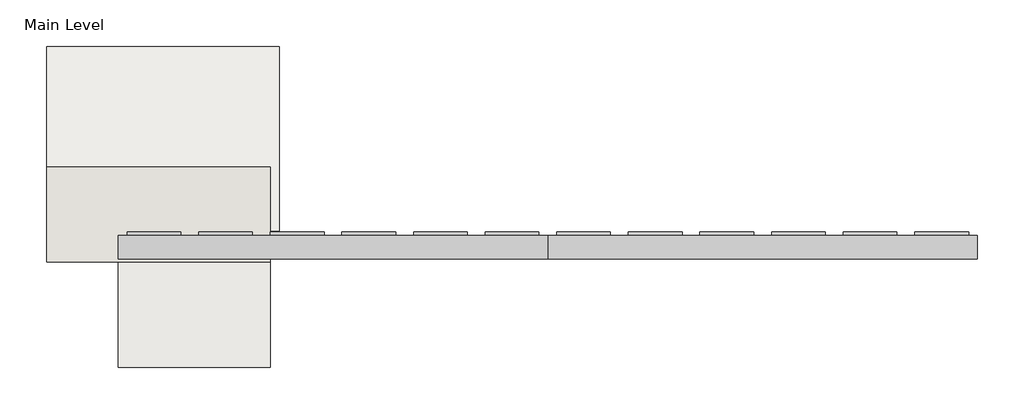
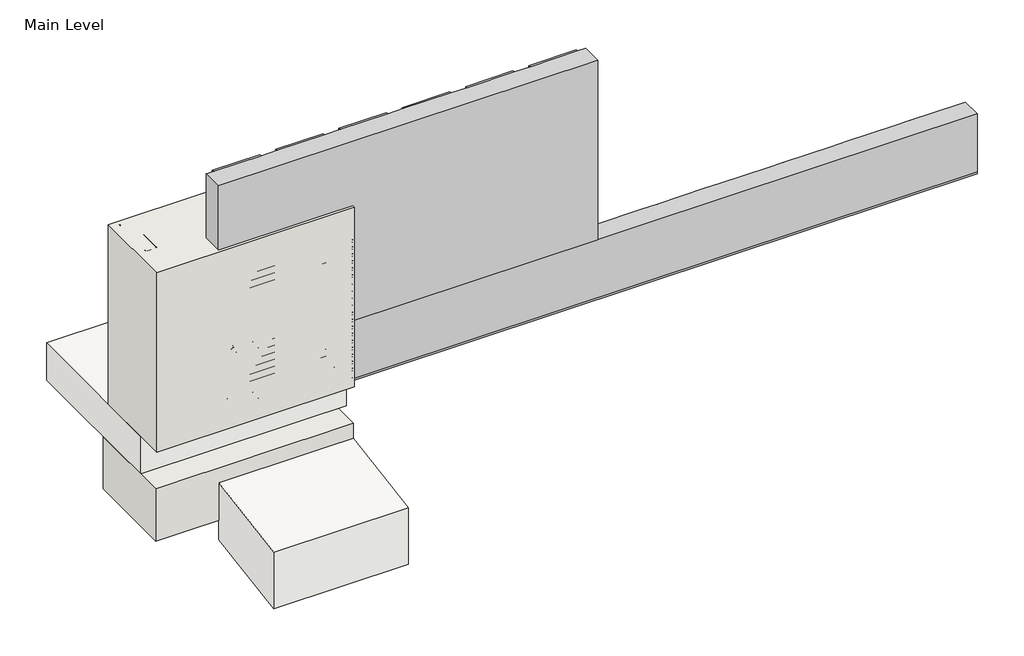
# One storey, incomplete: 10 proxies, 2 slabs, 2 walls.
"""IFC4 building model written with IfcOpenShell, lengths in millimetres."""

from ifc_helpers import new_model, si_unit, frame, origin, origin_with_axes, place, context, project, spatial, polyline, outline, extrude, transform, mapped, element, save
from components import generic_models_31547c53, generic_models_0bbfdc8f, generic_models_1e1ad44f, generic_models_7dd17a53, generic_models_441de798, generic_models_9d0e7a2a, generic_models_8c792c9c, proxy_215900e5, proxy_691c8b69, wood_blocking_c9818c35

model = new_model("IFC4")

# Units and contexts
model_context = context("Model", 3, world=origin())
ifc_project = project(units=[si_unit("LENGTHUNIT", "METRE", prefix="MILLI")], contexts=[model_context])

# Site, building, storey
site = spatial("IfcSite", under=ifc_project)
building = spatial("IfcBuilding", under=site)
storey = spatial("IfcBuildingStorey", under=building, Name="Main Level", Elevation=0.0)

# Proxies
placement = place(None, origin())
generic_models_shape = generic_models_31547c53(model_context)
element("IfcBuildingElementProxy", 1, Name="Durabond Generic Model Sealant Vent : Durabond Generic Model Sealant Vent", ObjectType="Durabond Generic Model Sealant Vent : Durabond Generic Model Sealant Vent", at=placement, inside=storey, context=model_context, shape_type="MappedRepresentation", body=[
    mapped(generic_models_shape, transform((26865.4101773, 546.8432813, 8.5594788), x_axis=(1.0, 0.0, 0.0), y_axis=(0.0, 0.08715574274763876, -0.9961946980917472), z_axis=(0.0, 0.9961946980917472, 0.08715574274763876))),
])
generic_models_2_shape = generic_models_0bbfdc8f(model_context)
generic_models_3_shape = generic_models_1e1ad44f(model_context)
generic_models_4_shape = generic_models_7dd17a53(model_context)
generic_models_5_shape = generic_models_441de798(model_context)
element("IfcBuildingElementProxy", 2, Name="CRAi Generic Model Mesh Piece Face Based : CRAi Generic Model Mesh Piece Face Based", ObjectType="CRAi Generic Model Mesh Piece Face Based : CRAi Generic Model Mesh Piece Face Based", at=placement, inside=storey, context=model_context, shape_type="MappedRepresentation", body=[
    mapped(generic_models_2_shape, transform((26933.6726773, 541.9066297, 261.6963215), x_axis=(-1.0, 0.0, 0.0), y_axis=(0.0, 0.0, -1.0), z_axis=(0.0, -1.0, 0.0))),
    mapped(generic_models_3_shape, transform((26933.6726773, 541.9066297, 261.6963215), x_axis=(-1.0, 0.0, 0.0), y_axis=(0.0, 0.0, -1.0), z_axis=(0.0, -1.0, 0.0))),
    mapped(generic_models_4_shape, transform((26933.6726773, 541.9066297, 261.6963215), x_axis=(-1.0, 0.0, 0.0), y_axis=(0.0, 0.0, -1.0), z_axis=(0.0, -1.0, 0.0))),
    mapped(generic_models_5_shape, transform((26933.6726773, 541.9066297, 261.6963215), x_axis=(-1.0, 0.0, 0.0), y_axis=(0.0, 0.0, -1.0), z_axis=(0.0, -1.0, 0.0))),
])
generic_models_6_shape = generic_models_9d0e7a2a(model_context)
element("IfcBuildingElementProxy", 3, Name="CRAi Generic Model Metal Stud Array : CRAi Generic Model Metal Stud Array", ObjectType="CRAi Generic Model Metal Stud Array : CRAi Generic Model Metal Stud Array", at=placement, inside=storey, context=model_context, shape_type="MappedRepresentation", body=[
    mapped(generic_models_6_shape, transform((26692.3726773, 719.7066297, 6.35), x_axis=(-1.0, 0.0, 0.0), y_axis=(0.0, -1.0, 0.0), z_axis=(0.0, 0.0, 1.0))),
])
generic_models_7_shape = generic_models_8c792c9c(model_context)
element("IfcBuildingElementProxy", 4, Name="Durabond Generic Model Screw w Standard Wall Plate : Durabond Generic Model Screw w Standard Wall Plate", ObjectType="Durabond Generic Model Screw w Standard Wall Plate : Durabond Generic Model Screw w Standard Wall Plate", at=placement, inside=storey, context=model_context, shape_type="MappedRepresentation", body=[
    mapped(generic_models_7_shape, transform((26781.2726773, 544.2878797, 85.242643), x_axis=(1.0, 0.0, 0.0), y_axis=(0.0, 0.0, 1.0), z_axis=(0.0, -1.0, 0.0))),
])
element("IfcBuildingElementProxy", 5, Name="Durabond Generic Model Screw w Standard Wall Plate : Durabond Generic Model Screw w Standard Wall Plate", ObjectType="Durabond Generic Model Screw w Standard Wall Plate : Durabond Generic Model Screw w Standard Wall Plate", at=placement, inside=storey, context=model_context, shape_type="MappedRepresentation", body=[
    mapped(generic_models_7_shape, transform((26781.2726773, 544.2878797, 256.692643), x_axis=(1.0, 0.0, 0.0), y_axis=(0.0, 0.0, 1.0), z_axis=(0.0, -1.0, 0.0))),
])
element("IfcBuildingElementProxy", 6, Name="Durabond Generic Model Screw w Standard Wall Plate : Durabond Generic Model Screw w Standard Wall Plate", ObjectType="Durabond Generic Model Screw w Standard Wall Plate : Durabond Generic Model Screw w Standard Wall Plate", at=placement, inside=storey, context=model_context, shape_type="MappedRepresentation", body=[
    mapped(generic_models_7_shape, transform((26703.4851773, 547.4628797, 85.242643), x_axis=(1.0, 0.0, 0.0), y_axis=(0.0, 0.0, 1.0), z_axis=(0.0, -1.0, 0.0))),
])
element("IfcBuildingElementProxy", 7, Name="Durabond Generic Model Screw w Standard Wall Plate : Durabond Generic Model Screw w Standard Wall Plate", ObjectType="Durabond Generic Model Screw w Standard Wall Plate : Durabond Generic Model Screw w Standard Wall Plate", at=placement, inside=storey, context=model_context, shape_type="MappedRepresentation", body=[
    mapped(generic_models_7_shape, transform((26716.1851773, 547.4628797, 256.692643), x_axis=(1.0, 0.0, 0.0), y_axis=(0.0, 0.0, 1.0), z_axis=(0.0, -1.0, 0.0))),
])
proxy_shape = proxy_215900e5(model_context)
element("IfcBuildingElementProxy", 8, Name="Durabond Generic Model Insulite Select Extruded Insulation Board : 3\"", ObjectType="Durabond Generic Model Insulite Select Extruded Insulation Board : 3\"", at=placement, inside=storey, context=model_context, shape_type="MappedRepresentation", body=[
    mapped(proxy_shape, transform((27276.5726773, 624.4566297, 523.392643), x_axis=(1.0, 0.0, 0.0), y_axis=(0.0, 0.0, 1.0), z_axis=(0.0, -1.0, 0.0))),
])
proxy_2_shape = proxy_691c8b69(model_context)
element("IfcBuildingElementProxy", 9, Name="Durabond Generic Model Insulite Select Extruded Vent Board : 3\"", ObjectType="Durabond Generic Model Insulite Select Extruded Vent Board : 3\"", at=placement, inside=storey, context=model_context, shape_type="MappedRepresentation", body=[
    mapped(proxy_2_shape, transform((27886.1726773, 624.4566297, 116.992643), x_axis=(1.0, 0.0, 0.0), y_axis=(0.0, 0.0, 1.0), z_axis=(0.0, -1.0, 0.0))),
])
wood_blocking_shape = wood_blocking_c9818c35(model_context)
element("IfcBuildingElementProxy", 10, Name="CRAi Generic Model Line Based Metal Framing Track : Wood Blocking", ObjectType="CRAi Generic Model Line Based Metal Framing Track : Wood Blocking", at=placement, inside=storey, context=model_context, shape_type="MappedRepresentation", body=[
    mapped(wood_blocking_shape, transform((26489.1726773, 643.5066297, 0.0), x_axis=(1.0, 0.0, 0.0), y_axis=(0.0, 1.0, 0.0), z_axis=(0.0, 0.0, 1.0))),
])

# Slabs
element("IfcSlab", 11, ObjectType="CRAi Concrete Floor - 5\"", at=placement, inside=storey, context=model_context, shape_type="SweptSolid", body=[
    extrude(outline(polyline([(27124.1726773, 627.6316297), (26463.7726773, 627.6316297), (26463.7726773, 1151.5066297), (27124.1726773, 1151.5066297), (27124.1726773, 627.6316297)])), frame((0.0, 0.0, -127.0), z_axis=(0.0, 0.0, 1.0), x_axis=(1.0, 0.0, 0.0)), (0.0, 0.0, 1.0), 127.0),
])
element("IfcSlab", 12, ObjectType="dIRT", at=placement, inside=storey, context=model_context, shape_type="SweptSolid", body=[
    extrude(outline(polyline([(545.0816297, -370.9277103), (240.2816297, -421.7277103), (240.2816297, -228.6), (545.0816297, -177.8), (545.0816297, -370.9277103)])), frame((26666.9726773, 0.0, 0.0), z_axis=(1.0, 0.0, 0.0), x_axis=(0.0, 1.0, 0.0)), (0.0, 0.0, 1.0), 431.8),
])

# Walls
element("IfcWall", 13, ObjectType="189mm (7.5”) EIFS Field Applied on Mtl. Stud Layer - 50mm Grooved Insulation Board Metal Stud Wall(AirStop) 2", at=placement, inside=storey, context=model_context, shape_type="SweptSolid", body=[
    extrude(outline(polyline([(27098.7726773, 538.7316297), (26463.7726773, 538.7316297), (26463.7726773, 808.6066297), (27098.7726773, 808.6066297), (27098.7726773, 538.7316297)])), origin_with_axes(), (0.0, 0.0, 1.0), 609.6),
])
element("IfcWall", 14, ObjectType="CRAi Insulated Foundation", at=placement, inside=storey, context=model_context, shape_type="SweptSolid", body=[
    extrude(outline(polyline([(27098.7726773, 545.0816297), (26463.7726773, 545.0816297), (26463.7726773, 837.1816297), (27098.7726773, 837.1816297), (27098.7726773, 545.0816297)])), frame((0.0, 0.0, -304.8), z_axis=(0.0, 0.0, 1.0), x_axis=(1.0, 0.0, 0.0)), (0.0, 0.0, 1.0), 177.8),
])

save(model, "model.ifc")
